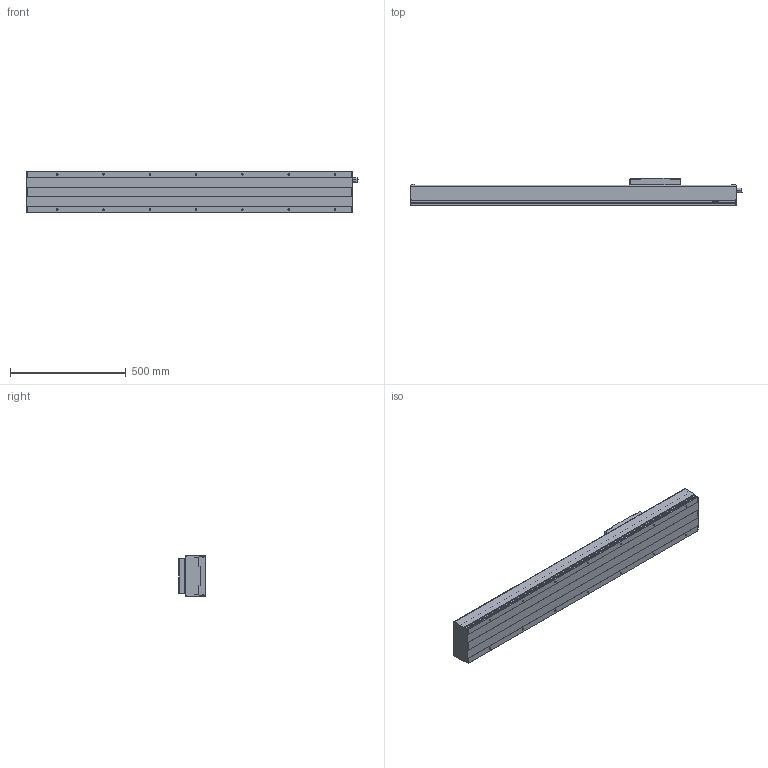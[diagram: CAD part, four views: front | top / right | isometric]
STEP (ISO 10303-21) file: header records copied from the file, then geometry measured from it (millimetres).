
FILE_DESCRIPTION(/* description */ (''),/* implementation_level */ '2;1');
FILE_NAME(/* name */ 'D:\混合母檔20191031\混和母檔\混和母檔\bin\Debug\Download\3D\KS180-20C-900AFI\KS180-20C-900AFI.stp',/* time_stamp */ '2019-11-04T16:21:46+08:00',/* author */ ('user'),/* organization */ (''),/* preprocessor_version */ 'ST-DEVELOPER v16.13',/* originating_system */ 'Autodesk Inventor 2018',/* authorisation */ '');
FILE_SCHEMA (('AUTOMOTIVE_DESIGN { 1 0 10303 214 3 1 1 }'));
Length unit declared in the file: millimetre
Products named in the file (3): KS180-20C-900AFI; KS180-FI; KS180-SL
Assembly tree (2 placements, depth 2):
  KS180-20C-900AFI
    KS180-FI
    KS180-SL
Bounding box: 1434.5 x 118 x 180 mm (x, y, z)
Volume: 8143686.3 mm3; surface area: 1734714.2 mm2
Topology: 4 solids, 8 shells, 738 faces, 1966 edges, 1282 vertices
Faces by surface type: plane 408, bspline 136, cylinder 88, cone 86, torus 16, sphere 4
Full cylindrical faces by diameter (mm): 3.571 x4, 4 x4, 4.134 x4, 4.5 x4, 6 x6, 6.647 x14, 8 x6, 8.016 x1, 8.4 x4, 9.4 x4, 12 x2, 13.1 x1, 15 x1, 18.75 x2, 46 x1, 50 x1
Entity records: 26521 total; most frequent: CARTESIAN_POINT 9344, ORIENTED_EDGE 3678, DIRECTION 3084, EDGE_CURVE 1838, VERTEX_POINT 1255, LINE 1174, VECTOR 1174, AXIS2_PLACEMENT_3D 955
